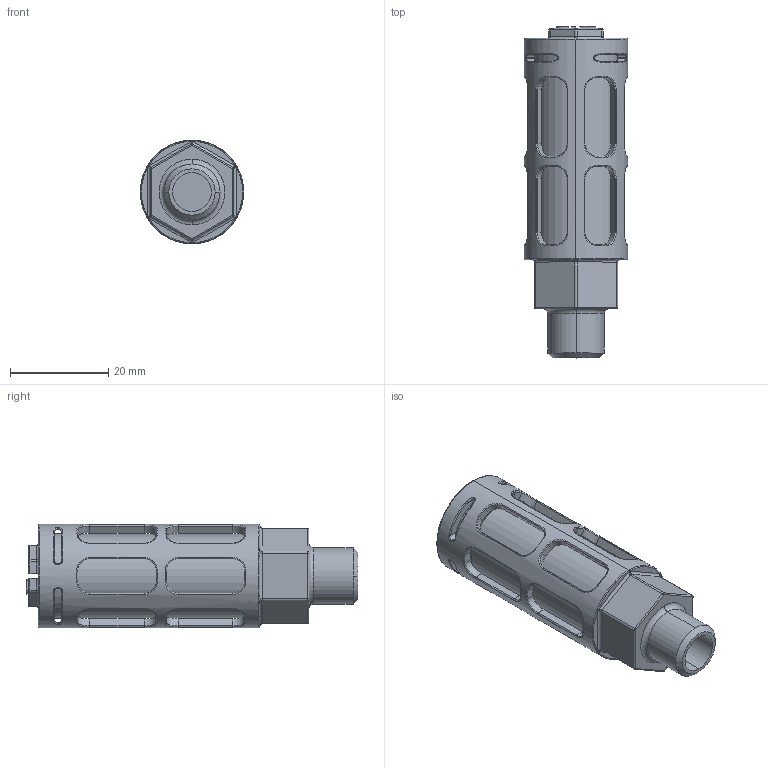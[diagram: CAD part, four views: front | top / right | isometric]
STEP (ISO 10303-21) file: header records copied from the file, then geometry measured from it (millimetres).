
FILE_DESCRIPTION (( 'STEP AP214' ), '1' );
FILE_NAME ('SLN00014 silenziatore PA grigio Gｼ.STEP', '2019-10-01T07:29:38', ( '' ), ( '' ), 'SwSTEP 2.0', 'SolidWorks 2018', '' );
FILE_SCHEMA (( 'AUTOMOTIVE_DESIGN' ));
Length unit declared in the file: millimetre
Products named in the file (1): SLN00014 silenziatore PA grigio G¼
Bounding box: 21 x 67.5 x 21 mm (x, y, z)
Volume: 14473.7 mm3; surface area: 9231.2 mm2
Topology: 3 solids, 3 shells, 500 faces, 1209 edges, 719 vertices
Faces by surface type: cylinder 190, plane 131, bspline 108, torus 65, cone 6
Entity records: 20805 total; most frequent: CARTESIAN_POINT 9893, ORIENTED_EDGE 2418, DIRECTION 2082, EDGE_CURVE 1209, AXIS2_PLACEMENT_3D 800, VERTEX_POINT 719, EDGE_LOOP 538, FACE_OUTER_BOUND 500
